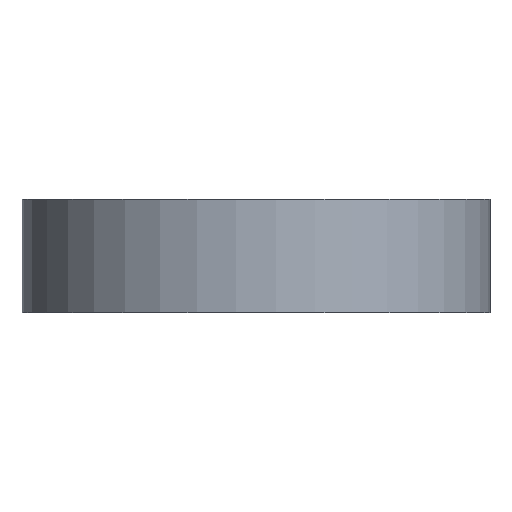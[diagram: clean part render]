
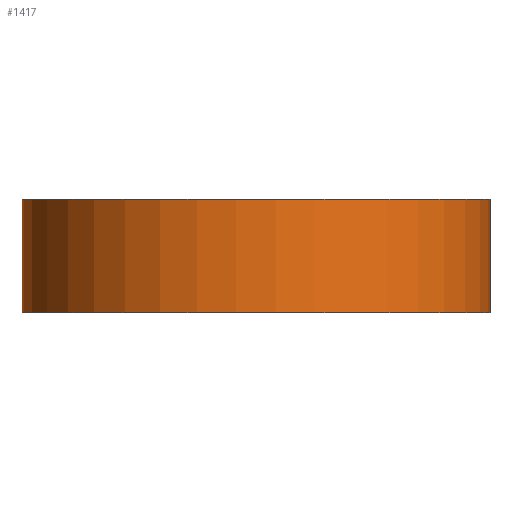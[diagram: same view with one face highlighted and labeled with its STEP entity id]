
A CAD part, left-side view. The second image highlights one B-rep face of the part: STEP entity #1417.
In plain terms, the highlighted cylindrical face has radius 31 mm (diameter 62 mm), a partial arc.
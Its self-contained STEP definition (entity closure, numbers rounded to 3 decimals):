
#37 = VERTEX_POINT ( 'NONE', #401 ) ;
#54 = EDGE_CURVE ( 'NONE', #56, #69, #429, .T. ) ;
#56 = VERTEX_POINT ( 'NONE', #434 ) ;
#69 = VERTEX_POINT ( 'NONE', #424 ) ;
#102 = EDGE_CURVE ( 'NONE', #1450, #37, #487, .T. ) ;
#401 = CARTESIAN_POINT ( 'NONE',  ( 6.433, 30.325, -7.5 ) ) ;
#415 = DIRECTION ( 'NONE',  ( 1., 0., 0. ) ) ;
#416 = DIRECTION ( 'NONE',  ( 0., 0., -1. ) ) ;
#417 = CARTESIAN_POINT ( 'NONE',  ( 0., 0., 7.5 ) ) ;
#418 = AXIS2_PLACEMENT_3D ( 'NONE', #417, #416, #415 ) ;
#424 = CARTESIAN_POINT ( 'NONE',  ( 6.433, 30.325, 7.5 ) ) ;
#429 = CIRCLE ( 'NONE', #418, 31. ) ;
#434 = CARTESIAN_POINT ( 'NONE',  ( 6.433, -30.325, 7.5 ) ) ;
#487 = CIRCLE ( 'NONE', #536, 31. ) ;
#526 = DIRECTION ( 'NONE',  ( 1., 0., 0. ) ) ;
#527 = DIRECTION ( 'NONE',  ( 0., 0., -1. ) ) ;
#536 = AXIS2_PLACEMENT_3D ( 'NONE', #541, #527, #526 ) ;
#541 = CARTESIAN_POINT ( 'NONE',  ( 0., 0., -7.5 ) ) ;
#1105 = CARTESIAN_POINT ( 'NONE',  ( 6.433, -30.325, -7.5 ) ) ;
#1111 = CARTESIAN_POINT ( 'NONE',  ( 0., 0., -7.5 ) ) ;
#1123 = FACE_OUTER_BOUND ( 'NONE', #1418, .T. ) ;
#1144 = DIRECTION ( 'NONE',  ( 0., 0., 1. ) ) ;
#1147 = AXIS2_PLACEMENT_3D ( 'NONE', #1111, #1144, #1154 ) ;
#1148 = CYLINDRICAL_SURFACE ( 'NONE', #1147, 31. ) ;
#1149 = DIRECTION ( 'NONE',  ( 0., 0., 1. ) ) ;
#1150 = VECTOR ( 'NONE', #1149, 1000. ) ;
#1151 = LINE ( 'NONE', #1105, #1150 ) ;
#1154 = DIRECTION ( 'NONE',  ( 1., 0., 0. ) ) ;
#1190 = CARTESIAN_POINT ( 'NONE',  ( 6.433, 30.325, -7.5 ) ) ;
#1192 = CARTESIAN_POINT ( 'NONE',  ( 6.433, -30.325, -7.5 ) ) ;
#1207 = VECTOR ( 'NONE', #1214, 1000. ) ;
#1213 = LINE ( 'NONE', #1190, #1207 ) ;
#1214 = DIRECTION ( 'NONE',  ( 0., 0., 1. ) ) ;
#1411 = EDGE_CURVE ( 'NONE', #1450, #56, #1151, .T. ) ;
#1412 = ORIENTED_EDGE ( 'NONE', *, *, #54, .T. ) ;
#1415 = ORIENTED_EDGE ( 'NONE', *, *, #102, .F. ) ;
#1417 = ADVANCED_FACE ( 'NONE', ( #1123 ), #1148, .T. ) ;
#1418 = EDGE_LOOP ( 'NONE', ( #1412, #1420, #1415, #1465 ) ) ;
#1420 = ORIENTED_EDGE ( 'NONE', *, *, #1470, .F. ) ;
#1450 = VERTEX_POINT ( 'NONE', #1192 ) ;
#1465 = ORIENTED_EDGE ( 'NONE', *, *, #1411, .T. ) ;
#1470 = EDGE_CURVE ( 'NONE', #37, #69, #1213, .T. ) ;
